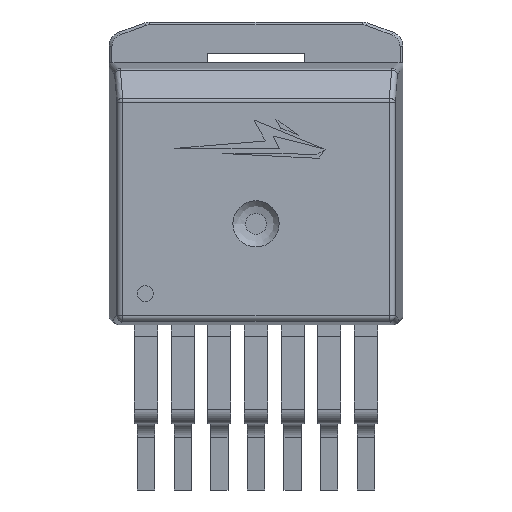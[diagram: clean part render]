
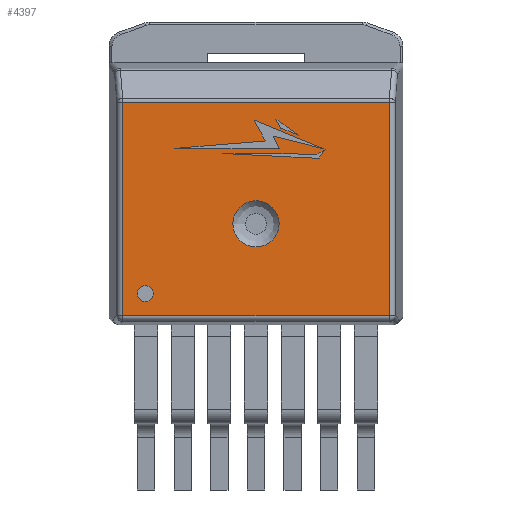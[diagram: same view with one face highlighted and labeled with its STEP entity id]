
A CAD part, top view. The second image highlights one B-rep face of the part: STEP entity #4397.
In plain terms, the highlighted planar face has unit normal (0, 0, 1).
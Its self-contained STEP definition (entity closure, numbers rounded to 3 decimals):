
#91=FACE_BOUND('',#1661,.T.);
#116=PLANE('',#4685);
#303=LINE('',#6281,#825);
#305=LINE('',#6289,#827);
#307=LINE('',#6299,#829);
#309=LINE('',#6308,#831);
#825=VECTOR('',#5047,7.397);
#827=VECTOR('',#5055,9.239);
#829=VECTOR('',#5067,7.397);
#831=VECTOR('',#5079,9.239);
#1407=FACE_OUTER_BOUND('',#1660,.T.);
#1660=EDGE_LOOP('',(#3139,#3140,#3141,#3142));
#1661=EDGE_LOOP('',(#3143,#3144));
#1917=CIRCLE('',#4686,0.8);
#1918=CIRCLE('',#4687,0.8);
#2002=VERTEX_POINT('',#6278);
#2003=VERTEX_POINT('',#6280);
#2006=VERTEX_POINT('',#6288);
#2009=VERTEX_POINT('',#6298);
#2017=VERTEX_POINT('',#6333);
#2018=VERTEX_POINT('',#6334);
#2435=EDGE_CURVE('',#2002,#2003,#303,.T.);
#2439=EDGE_CURVE('',#2003,#2006,#305,.T.);
#2444=EDGE_CURVE('',#2006,#2009,#307,.T.);
#2449=EDGE_CURVE('',#2009,#2002,#309,.T.);
#2462=EDGE_CURVE('',#2017,#2018,#1917,.T.);
#2463=EDGE_CURVE('',#2018,#2017,#1918,.T.);
#3139=ORIENTED_EDGE('',*,*,#2435,.F.);
#3140=ORIENTED_EDGE('',*,*,#2449,.F.);
#3141=ORIENTED_EDGE('',*,*,#2444,.F.);
#3142=ORIENTED_EDGE('',*,*,#2439,.F.);
#3143=ORIENTED_EDGE('',*,*,#2462,.T.);
#3144=ORIENTED_EDGE('',*,*,#2463,.T.);
#4397=ADVANCED_FACE('',(#1407,#91),#116,.T.);
#4685=AXIS2_PLACEMENT_3D('',#6332,#5107,#5108);
#4686=AXIS2_PLACEMENT_3D('',#6335,#5109,#5110);
#4687=AXIS2_PLACEMENT_3D('',#6336,#5111,#5112);
#5047=DIRECTION('',(0.,-1.,0.));
#5055=DIRECTION('',(-1.,0.,0.));
#5067=DIRECTION('',(0.,1.,0.));
#5079=DIRECTION('',(1.,0.,0.));
#5107=DIRECTION('center_axis',(0.,0.,1.));
#5108=DIRECTION('ref_axis',(1.,0.,0.));
#5109=DIRECTION('center_axis',(0.,0.,-1.));
#5110=DIRECTION('ref_axis',(-1.,0.,0.));
#5111=DIRECTION('center_axis',(0.,0.,-1.));
#5112=DIRECTION('ref_axis',(-1.,0.,0.));
#6278=CARTESIAN_POINT('',(4.619,3.172,4.82));
#6280=CARTESIAN_POINT('',(4.619,-4.224,4.82));
#6281=CARTESIAN_POINT('',(4.619,-1.134,4.82));
#6288=CARTESIAN_POINT('',(-4.619,-4.224,4.82));
#6289=CARTESIAN_POINT('',(-1.273,-4.224,4.82));
#6298=CARTESIAN_POINT('',(-4.619,3.172,4.82));
#6299=CARTESIAN_POINT('',(-4.619,1.134,4.82));
#6308=CARTESIAN_POINT('',(0.636,3.172,4.82));
#6332=CARTESIAN_POINT('Origin',(0.,0.,4.82));
#6333=CARTESIAN_POINT('',(0.8,-1.045,4.82));
#6334=CARTESIAN_POINT('',(-0.8,-1.045,4.82));
#6335=CARTESIAN_POINT('Origin',(0.,-1.045,4.82));
#6336=CARTESIAN_POINT('Origin',(0.,-1.045,4.82));
